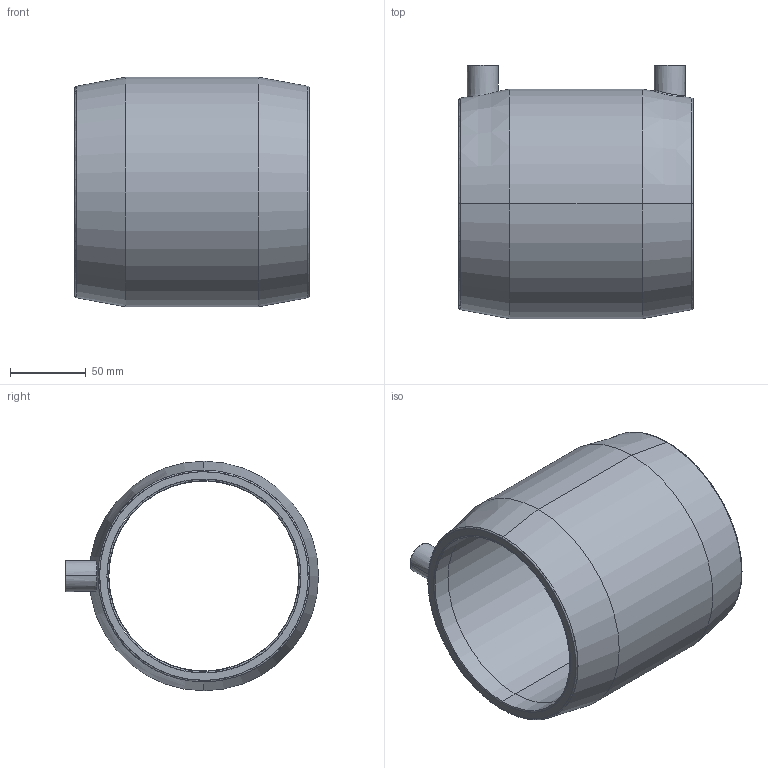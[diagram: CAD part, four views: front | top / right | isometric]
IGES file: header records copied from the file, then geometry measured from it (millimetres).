
Start section: SolidWorks IGES file using analytic representation for surfaces
Global section: file name: G:\Group\Marketing\Public\CAD Offering - Website\1. coupler\CBKHA125.IGS; native system: SolidWorks 2017; preprocessor: SolidWorks 2017; author: hwegrzynska; date: 180919.151058; units: millimetre
Bounding box: 154.2 x 166.64 x 151 mm (x, y, z)
Surface area: 142379.6 mm2 (no closed solid volume)
Topology: 0 solids, 0 shells, 54 faces, 893 edges, 893 vertices
Faces by surface type: revolution 36, bspline 18
